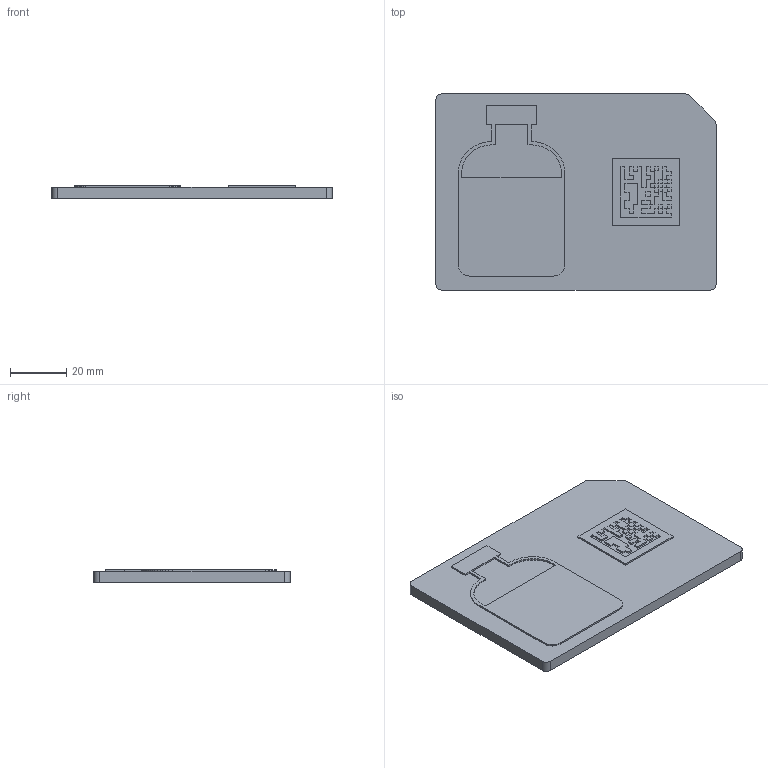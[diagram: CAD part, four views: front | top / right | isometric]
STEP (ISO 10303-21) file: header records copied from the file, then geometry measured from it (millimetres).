
FILE_DESCRIPTION(('Open CASCADE Model'),'2;1');
FILE_NAME('Open CASCADE Shape Model','2026-10-14T18:10:07',('Author'),( 'Open CASCADE'),'Open CASCADE STEP processor 7.9','Open CASCADE 7.9' ,'Unknown');
FILE_SCHEMA(('AUTOMOTIVE_DESIGN { 1 0 10303 214 1 1 1 1 }'));
Length unit declared in the file: millimetre
Products named in the file (3): SN-4843; SN-4843_base_dark; SN-4843_features_red
Assembly tree (2 placements, depth 2):
  SN-4843
    SN-4843_base_dark
    SN-4843_features_red
Bounding box: 100 x 70 x 4.6 mm (x, y, z)
Volume: 28937.1 mm3; surface area: 20454.4 mm2
Topology: 5 solids, 5 shells, 485 faces, 1374 edges, 916 vertices
Faces by surface type: plane 480, cylinder 5
Entity records: 32947 total; most frequent: CARTESIAN_POINT 5986, DIRECTION 4658, LINE 3654, VECTOR 3654, ORIENTED_EDGE 2748, PCURVE 2748, DEFINITIONAL_REPRESENTATION 2748, EDGE_CURVE 1374
